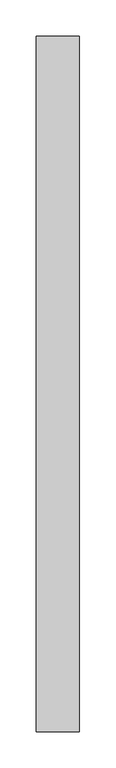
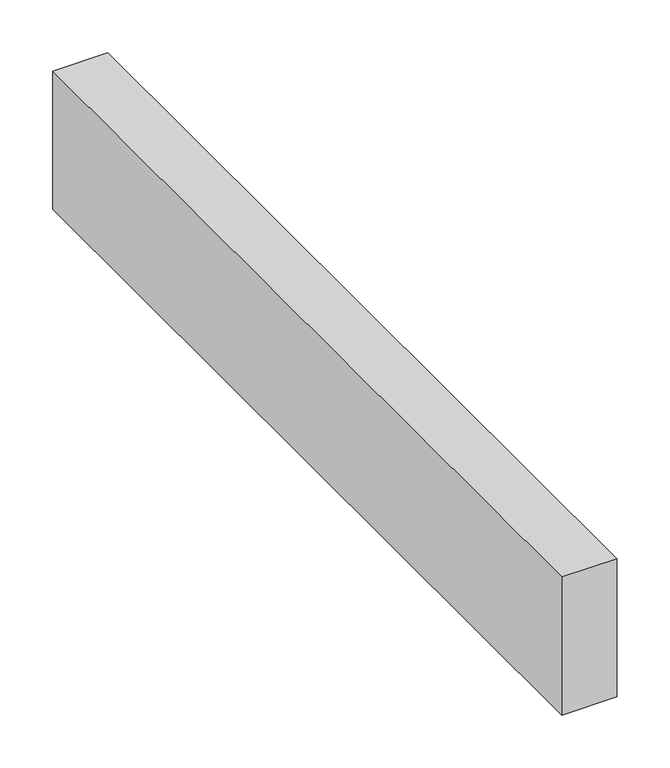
"""IFC4 building model written with IfcOpenShell, lengths in millimetres: proxy geometry, Modelos genéricos 89 : Modelos genéricos 9."""

from ifc_helpers import new_model, si_unit, frame, origin, place, context, project, spatial, polyline, outline, extrude, source, transform, mapped, element, save


def generic_models_233710ef(model_context):
    return source(origin(), model_context, "Body", "SweptSolid", [
        extrude(outline(polyline([(2043.4472467, 2432.1598815), (2043.4472467, 1468.6238165), (1983.4472467, 1468.6238165), (1983.4472467, 2432.1598815), (2043.4472467, 2432.1598815)])), frame((0.0, 0.0, 3000.0), z_axis=(0.0, 0.0, 1.0), x_axis=(1.0, 0.0, 0.0)), (0.0, 0.0, 1.0), 160.0),
    ])


if __name__ == "__main__":
    model = new_model("IFC4")
    model_context = context("Model", 3, world=origin())
    ifc_project = project(units=[si_unit("LENGTHUNIT", "METRE", prefix="MILLI")], contexts=[model_context])
    site = spatial("IfcSite", under=ifc_project)
    building = spatial("IfcBuilding", under=site)
    placement = place(None, origin())
    generic_models_shape = generic_models_233710ef(model_context)
    element("IfcBuildingElementProxy", 1, Name="Modelos genéricos 89 : Modelos genéricos 9", ObjectType="Modelos genéricos 89 : Modelos genéricos 9", at=placement, inside=building, context=model_context, shape_type="MappedRepresentation", body=[
        mapped(generic_models_shape, transform((0.0, 0.0, 0.0), x_axis=(1.0, 0.0, 0.0), y_axis=(0.0, 1.0, 0.0), z_axis=(0.0, 0.0, 1.0))),
    ])
    save(model, "model.ifc")
